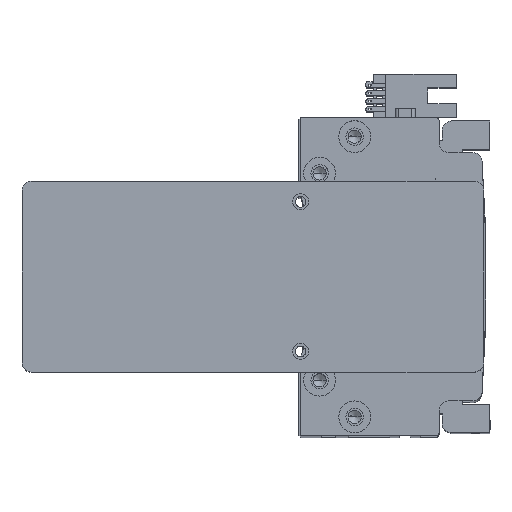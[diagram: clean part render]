
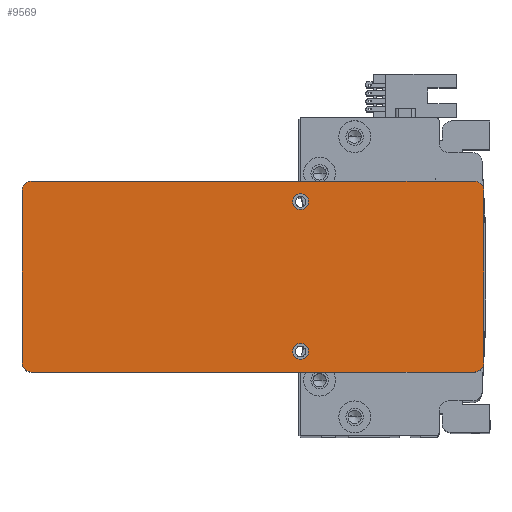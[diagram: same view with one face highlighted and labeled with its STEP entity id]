
A CAD part, top view. The second image highlights one B-rep face of the part: STEP entity #9569.
In plain terms, the highlighted planar face has unit normal (0, 0, 1) as drawn and (0, 0, -1) by its records, which use the part's own axes.
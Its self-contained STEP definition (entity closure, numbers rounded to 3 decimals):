
#155 = AXIS2_PLACEMENT_3D ( 'NONE', #20763, #48282, #24746 ) ;
#834 = CARTESIAN_POINT ( 'NONE',  ( -72.5, -27., 0. ) ) ;
#2115 = EDGE_LOOP ( 'NONE', ( #16195, #23997 ) ) ;
#2574 = ORIENTED_EDGE ( 'NONE', *, *, #50037, .T. ) ;
#5937 = CIRCLE ( 'NONE', #32949, 3. ) ;
#5955 = ORIENTED_EDGE ( 'NONE', *, *, #36913, .F. ) ;
#6057 = CIRCLE ( 'NONE', #34304, 2.5 ) ;
#6934 = DIRECTION ( 'NONE',  ( 0., 0., -1. ) ) ;
#7303 = CARTESIAN_POINT ( 'NONE',  ( 72.5, -27., 0. ) ) ;
#7459 = EDGE_CURVE ( 'NONE', #46405, #10826, #45411, .T. ) ;
#7716 = DIRECTION ( 'NONE',  ( 0., 0., -1. ) ) ;
#7763 = EDGE_CURVE ( 'NONE', #42964, #28622, #5937, .T. ) ;
#8073 = AXIS2_PLACEMENT_3D ( 'NONE', #43207, #19697, #47205 ) ;
#8119 = FACE_BOUND ( 'NONE', #12656, .T. ) ;
#8765 = VERTEX_POINT ( 'NONE', #31178 ) ;
#9471 = CARTESIAN_POINT ( 'NONE',  ( 69.5, 27., 0. ) ) ;
#9569 = ADVANCED_FACE ( 'NONE', ( #29069, #8119, #24768 ), #45030, .F. ) ;
#9791 = DIRECTION ( 'NONE',  ( 0., 0., 1. ) ) ;
#10826 = VERTEX_POINT ( 'NONE', #42623 ) ;
#11073 = DIRECTION ( 'NONE',  ( 0., 1., 0. ) ) ;
#11310 = EDGE_CURVE ( 'NONE', #8765, #28622, #44757, .T. ) ;
#11743 = CARTESIAN_POINT ( 'NONE',  ( -69.5, 30., 0. ) ) ;
#12125 = EDGE_LOOP ( 'NONE', ( #5955, #43670, #14888, #25378, #44360, #31215, #34170, #2574 ) ) ;
#12526 = EDGE_CURVE ( 'NONE', #48696, #49360, #41365, .T. ) ;
#12656 = EDGE_LOOP ( 'NONE', ( #39052, #37990 ) ) ;
#13474 = DIRECTION ( 'NONE',  ( 1., 0., 0. ) ) ;
#14148 = DIRECTION ( 'NONE',  ( -1., 0., 0. ) ) ;
#14732 = DIRECTION ( 'NONE',  ( 0., -1., 0. ) ) ;
#14888 = ORIENTED_EDGE ( 'NONE', *, *, #43439, .F. ) ;
#15172 = VERTEX_POINT ( 'NONE', #40770 ) ;
#16125 = CARTESIAN_POINT ( 'NONE',  ( -69.5, -27., 0. ) ) ;
#16195 = ORIENTED_EDGE ( 'NONE', *, *, #12526, .F. ) ;
#16339 = CARTESIAN_POINT ( 'NONE',  ( -69.5, 27., 0. ) ) ;
#16434 = LINE ( 'NONE', #45174, #36159 ) ;
#17296 = LINE ( 'NONE', #30342, #26506 ) ;
#17401 = VECTOR ( 'NONE', #11073, 1000. ) ;
#18221 = CARTESIAN_POINT ( 'NONE',  ( -72.5, 27., 0. ) ) ;
#19697 = DIRECTION ( 'NONE',  ( 0., 0., -1. ) ) ;
#19850 = CARTESIAN_POINT ( 'NONE',  ( 72.5, 27., 0. ) ) ;
#20044 = DIRECTION ( 'NONE',  ( 1., 0., 0. ) ) ;
#20164 = CIRCLE ( 'NONE', #49633, 3. ) ;
#20255 = DIRECTION ( 'NONE',  ( 1., 0., 0. ) ) ;
#20352 = CARTESIAN_POINT ( 'NONE',  ( 15., -23.5, 0. ) ) ;
#20763 = CARTESIAN_POINT ( 'NONE',  ( 69.5, -27., 0. ) ) ;
#21728 = CIRCLE ( 'NONE', #8073, 2.5 ) ;
#22714 = CARTESIAN_POINT ( 'NONE',  ( 72.5, -30., 0. ) ) ;
#23997 = ORIENTED_EDGE ( 'NONE', *, *, #44916, .F. ) ;
#24334 = DIRECTION ( 'NONE',  ( -1., 0., 0. ) ) ;
#24664 = AXIS2_PLACEMENT_3D ( 'NONE', #31316, #7716, #35323 ) ;
#24746 = DIRECTION ( 'NONE',  ( 1., 0., 0. ) ) ;
#24768 = FACE_OUTER_BOUND ( 'NONE', #12125, .T. ) ;
#25378 = ORIENTED_EDGE ( 'NONE', *, *, #32411, .T. ) ;
#26506 = VECTOR ( 'NONE', #14732, 1000. ) ;
#26555 = VERTEX_POINT ( 'NONE', #834 ) ;
#26700 = VERTEX_POINT ( 'NONE', #37407 ) ;
#26966 = AXIS2_PLACEMENT_3D ( 'NONE', #20352, #47870, #24334 ) ;
#26968 = CIRCLE ( 'NONE', #155, 3. ) ;
#28249 = CARTESIAN_POINT ( 'NONE',  ( 12.5, 23.5, 0. ) ) ;
#28622 = VERTEX_POINT ( 'NONE', #11743 ) ;
#29069 = FACE_BOUND ( 'NONE', #2115, .T. ) ;
#30342 = CARTESIAN_POINT ( 'NONE',  ( -72.5, -30., 0. ) ) ;
#30350 = LINE ( 'NONE', #22714, #17401 ) ;
#30526 = CARTESIAN_POINT ( 'NONE',  ( 15., -23.5, 0. ) ) ;
#30566 = CARTESIAN_POINT ( 'NONE',  ( 17.5, 23.5, 0. ) ) ;
#31178 = CARTESIAN_POINT ( 'NONE',  ( 69.5, 30., 0. ) ) ;
#31215 = ORIENTED_EDGE ( 'NONE', *, *, #7763, .T. ) ;
#31316 = CARTESIAN_POINT ( 'NONE',  ( 15., 23.5, 0. ) ) ;
#32147 = AXIS2_PLACEMENT_3D ( 'NONE', #9471, #37030, #13474 ) ;
#32411 = EDGE_CURVE ( 'NONE', #26700, #26555, #20164, .T. ) ;
#32949 = AXIS2_PLACEMENT_3D ( 'NONE', #16339, #43799, #20255 ) ;
#33364 = CARTESIAN_POINT ( 'NONE',  ( 0., 0., 0. ) ) ;
#34170 = ORIENTED_EDGE ( 'NONE', *, *, #11310, .F. ) ;
#34304 = AXIS2_PLACEMENT_3D ( 'NONE', #30526, #6934, #34516 ) ;
#34359 = VECTOR ( 'NONE', #14148, 1000. ) ;
#34516 = DIRECTION ( 'NONE',  ( -1., 0., 0. ) ) ;
#35323 = DIRECTION ( 'NONE',  ( -1., 0., 0. ) ) ;
#35479 = EDGE_CURVE ( 'NONE', #42964, #26555, #17296, .T. ) ;
#36159 = VECTOR ( 'NONE', #49112, 1000. ) ;
#36494 = VERTEX_POINT ( 'NONE', #19850 ) ;
#36913 = EDGE_CURVE ( 'NONE', #50927, #36494, #30350, .T. ) ;
#37030 = DIRECTION ( 'NONE',  ( 0., 0., -1. ) ) ;
#37328 = DIRECTION ( 'NONE',  ( 1., 0., 0. ) ) ;
#37407 = CARTESIAN_POINT ( 'NONE',  ( -69.5, -30., 0. ) ) ;
#37990 = ORIENTED_EDGE ( 'NONE', *, *, #7459, .F. ) ;
#38640 = EDGE_CURVE ( 'NONE', #50927, #15172, #26968, .T. ) ;
#39052 = ORIENTED_EDGE ( 'NONE', *, *, #46857, .F. ) ;
#39503 = CARTESIAN_POINT ( 'NONE',  ( 17.5, -23.5, 0. ) ) ;
#40770 = CARTESIAN_POINT ( 'NONE',  ( 69.5, -30., 0. ) ) ;
#41365 = CIRCLE ( 'NONE', #24664, 2.5 ) ;
#42623 = CARTESIAN_POINT ( 'NONE',  ( 12.5, -23.5, 0. ) ) ;
#42964 = VERTEX_POINT ( 'NONE', #18221 ) ;
#43207 = CARTESIAN_POINT ( 'NONE',  ( 15., 23.5, 0. ) ) ;
#43439 = EDGE_CURVE ( 'NONE', #26700, #15172, #16434, .T. ) ;
#43580 = DIRECTION ( 'NONE',  ( 0., 0., -1. ) ) ;
#43666 = CIRCLE ( 'NONE', #32147, 3. ) ;
#43670 = ORIENTED_EDGE ( 'NONE', *, *, #38640, .T. ) ;
#43799 = DIRECTION ( 'NONE',  ( 0., 0., -1. ) ) ;
#43921 = AXIS2_PLACEMENT_3D ( 'NONE', #33364, #9791, #37328 ) ;
#44360 = ORIENTED_EDGE ( 'NONE', *, *, #35479, .F. ) ;
#44757 = LINE ( 'NONE', #45394, #34359 ) ;
#44916 = EDGE_CURVE ( 'NONE', #49360, #48696, #21728, .T. ) ;
#45030 = PLANE ( 'NONE',  #43921 ) ;
#45174 = CARTESIAN_POINT ( 'NONE',  ( 72.5, -30., 0. ) ) ;
#45394 = CARTESIAN_POINT ( 'NONE',  ( 72.5, 30., 0. ) ) ;
#45411 = CIRCLE ( 'NONE', #26966, 2.5 ) ;
#46405 = VERTEX_POINT ( 'NONE', #39503 ) ;
#46857 = EDGE_CURVE ( 'NONE', #10826, #46405, #6057, .T. ) ;
#47205 = DIRECTION ( 'NONE',  ( -1., 0., 0. ) ) ;
#47870 = DIRECTION ( 'NONE',  ( 0., 0., -1. ) ) ;
#48282 = DIRECTION ( 'NONE',  ( 0., 0., -1. ) ) ;
#48696 = VERTEX_POINT ( 'NONE', #28249 ) ;
#49112 = DIRECTION ( 'NONE',  ( 1., 0., 0. ) ) ;
#49360 = VERTEX_POINT ( 'NONE', #30566 ) ;
#49633 = AXIS2_PLACEMENT_3D ( 'NONE', #16125, #43580, #20044 ) ;
#50037 = EDGE_CURVE ( 'NONE', #8765, #36494, #43666, .T. ) ;
#50927 = VERTEX_POINT ( 'NONE', #7303 ) ;
